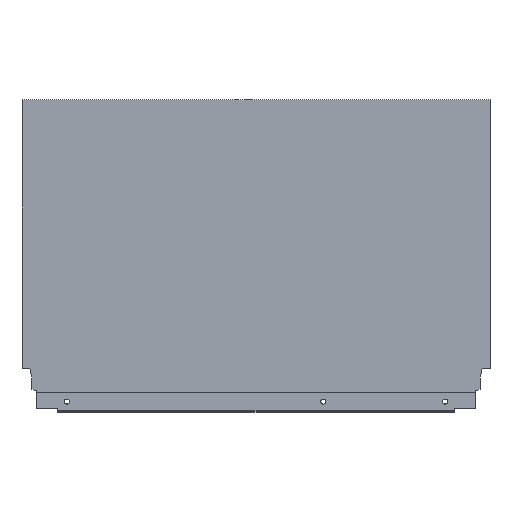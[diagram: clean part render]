
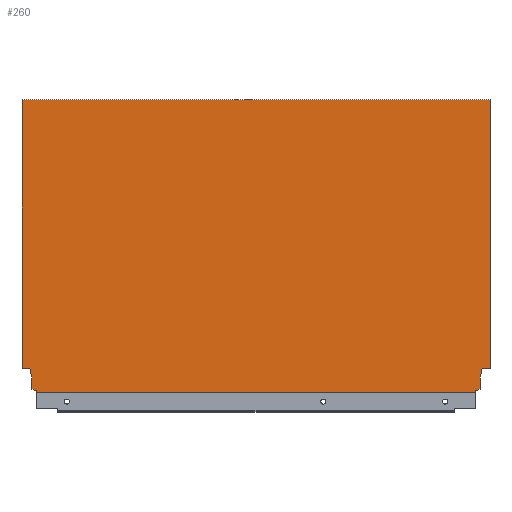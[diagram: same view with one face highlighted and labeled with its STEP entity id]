
A CAD part, top view. The second image highlights one B-rep face of the part: STEP entity #260.
In plain terms, the highlighted planar face has unit normal (0, 0, 1).
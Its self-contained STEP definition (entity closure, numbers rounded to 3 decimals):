
#6 = EDGE_CURVE ( 'NONE', #1136, #1373, #772, .T. ) ;
#14 = EDGE_CURVE ( 'NONE', #1151, #1108, #754, .T. ) ;
#22 = EDGE_CURVE ( 'NONE', #1363, #1300, #741, .T. ) ;
#25 = EDGE_CURVE ( 'NONE', #1377, #1373, #734, .T. ) ;
#29 = EDGE_CURVE ( 'NONE', #1410, #1418, #739, .T. ) ;
#30 = EDGE_CURVE ( 'NONE', #1084, #1362, #726, .T. ) ;
#33 = EDGE_CURVE ( 'NONE', #1323, #1480, #727, .T. ) ;
#60 = EDGE_CURVE ( 'NONE', #1363, #1358, #670, .T. ) ;
#73 = EDGE_CURVE ( 'NONE', #1362, #1151, #651, .T. ) ;
#122 = AXIS2_PLACEMENT_3D ( 'NONE', #1246, #1243, #1241 ) ;
#148 = EDGE_CURVE ( 'NONE', #1300, #1323, #598, .T. ) ;
#160 = EDGE_CURVE ( 'NONE', #1480, #1377, #579, .T. ) ;
#167 = EDGE_CURVE ( 'NONE', #1418, #1358, #574, .T. ) ;
#192 = EDGE_CURVE ( 'NONE', #1136, #1084, #204, .T. ) ;
#196 = EDGE_CURVE ( 'NONE', #1108, #1410, #218, .T. ) ;
#204 = LINE ( 'NONE', #1292, #223 ) ;
#217 = VECTOR ( 'NONE', #1285, 1000. ) ;
#218 = LINE ( 'NONE', #1284, #217 ) ;
#223 = VECTOR ( 'NONE', #1293, 1000. ) ;
#260 = ADVANCED_FACE ( 'NONE', ( #279 ), #1269, .T. ) ;
#279 = FACE_OUTER_BOUND ( 'NONE', #817, .T. ) ;
#439 = ORIENTED_EDGE ( 'NONE', *, *, #25, .F. ) ;
#485 = ORIENTED_EDGE ( 'NONE', *, *, #160, .F. ) ;
#508 = ORIENTED_EDGE ( 'NONE', *, *, #148, .F. ) ;
#512 = ORIENTED_EDGE ( 'NONE', *, *, #22, .F. ) ;
#514 = ORIENTED_EDGE ( 'NONE', *, *, #6, .T. ) ;
#532 = ORIENTED_EDGE ( 'NONE', *, *, #33, .F. ) ;
#572 = VECTOR ( 'NONE', #1478, 1000. ) ;
#574 = LINE ( 'NONE', #1374, #572 ) ;
#578 = VECTOR ( 'NONE', #1369, 1000. ) ;
#579 = LINE ( 'NONE', #1370, #578 ) ;
#597 = VECTOR ( 'NONE', #1394, 1000. ) ;
#598 = LINE ( 'NONE', #1391, #597 ) ;
#650 = VECTOR ( 'NONE', #1464, 1000. ) ;
#651 = LINE ( 'NONE', #1465, #650 ) ;
#669 = VECTOR ( 'NONE', #862, 1000. ) ;
#670 = LINE ( 'NONE', #859, #669 ) ;
#718 = VECTOR ( 'NONE', #889, 1000. ) ;
#724 = VECTOR ( 'NONE', #882, 1000. ) ;
#726 = LINE ( 'NONE', #960, #724 ) ;
#727 = LINE ( 'NONE', #881, #718 ) ;
#734 = LINE ( 'NONE', #936, #740 ) ;
#735 = VECTOR ( 'NONE', #880, 1000. ) ;
#739 = LINE ( 'NONE', #945, #735 ) ;
#740 = VECTOR ( 'NONE', #956, 1000. ) ;
#741 = LINE ( 'NONE', #940, #743 ) ;
#743 = VECTOR ( 'NONE', #939, 1000. ) ;
#751 = VECTOR ( 'NONE', #913, 1000. ) ;
#754 = LINE ( 'NONE', #876, #751 ) ;
#766 = VECTOR ( 'NONE', #1184, 1000. ) ;
#772 = LINE ( 'NONE', #1177, #766 ) ;
#817 = EDGE_LOOP ( 'NONE', ( #514, #439, #485, #532, #508, #512, #829, #838, #834, #840, #841, #833, #830, #832 ) ) ;
#829 = ORIENTED_EDGE ( 'NONE', *, *, #60, .T. ) ;
#830 = ORIENTED_EDGE ( 'NONE', *, *, #30, .F. ) ;
#832 = ORIENTED_EDGE ( 'NONE', *, *, #192, .F. ) ;
#833 = ORIENTED_EDGE ( 'NONE', *, *, #73, .F. ) ;
#834 = ORIENTED_EDGE ( 'NONE', *, *, #29, .F. ) ;
#838 = ORIENTED_EDGE ( 'NONE', *, *, #167, .F. ) ;
#840 = ORIENTED_EDGE ( 'NONE', *, *, #196, .F. ) ;
#841 = ORIENTED_EDGE ( 'NONE', *, *, #14, .F. ) ;
#859 = CARTESIAN_POINT ( 'NONE',  ( -417., 0., 8. ) ) ;
#862 = DIRECTION ( 'NONE',  ( 1., 0., 0. ) ) ;
#876 = CARTESIAN_POINT ( 'NONE',  ( -7.06, 21.2, 8. ) ) ;
#880 = DIRECTION ( 'NONE',  ( -0.94, -0.342, 0. ) ) ;
#881 = CARTESIAN_POINT ( 'NONE',  ( -408.1, 10.765, 8. ) ) ;
#882 = DIRECTION ( 'NONE',  ( 0., -1., 0. ) ) ;
#889 = DIRECTION ( 'NONE',  ( 0., 1., 0. ) ) ;
#913 = DIRECTION ( 'NONE',  ( -0.174, -0.985, 0. ) ) ;
#936 = CARTESIAN_POINT ( 'NONE',  ( -422., 21.2, 8. ) ) ;
#939 = DIRECTION ( 'NONE',  ( 0., 1., 0. ) ) ;
#940 = CARTESIAN_POINT ( 'NONE',  ( -403.996, 1.146, 8. ) ) ;
#945 = CARTESIAN_POINT ( 'NONE',  ( -8.9, 2.64, 8. ) ) ;
#956 = DIRECTION ( 'NONE',  ( -1., 0., 0. ) ) ;
#960 = CARTESIAN_POINT ( 'NONE',  ( 0., 0., 8. ) ) ;
#985 = CARTESIAN_POINT ( 'NONE',  ( -8.9, 2.64, 8. ) ) ;
#999 = CARTESIAN_POINT ( 'NONE',  ( -408.1, 2.64, 8. ) ) ;
#1013 = CARTESIAN_POINT ( 'NONE',  ( 0., 21.2, 8. ) ) ;
#1015 = CARTESIAN_POINT ( 'NONE',  ( -13.004, 0., 8. ) ) ;
#1022 = CARTESIAN_POINT ( 'NONE',  ( -403.996, 0., 8. ) ) ;
#1025 = CARTESIAN_POINT ( 'NONE',  ( -409.94, 21.2, 8. ) ) ;
#1026 = CARTESIAN_POINT ( 'NONE',  ( -417., 21.2, 8. ) ) ;
#1035 = CARTESIAN_POINT ( 'NONE',  ( -13.004, 1.146, 8. ) ) ;
#1040 = CARTESIAN_POINT ( 'NONE',  ( -408.1, 10.765, 8. ) ) ;
#1044 = CARTESIAN_POINT ( 'NONE',  ( -403.996, 1.146, 8. ) ) ;
#1084 = VERTEX_POINT ( 'NONE', #1088 ) ;
#1088 = CARTESIAN_POINT ( 'NONE',  ( 0., 260.7, 8. ) ) ;
#1093 = CARTESIAN_POINT ( 'NONE',  ( -8.9, 10.765, 8. ) ) ;
#1097 = CARTESIAN_POINT ( 'NONE',  ( -417., 260.7, 8. ) ) ;
#1100 = CARTESIAN_POINT ( 'NONE',  ( -7.06, 21.2, 8. ) ) ;
#1108 = VERTEX_POINT ( 'NONE', #1093 ) ;
#1136 = VERTEX_POINT ( 'NONE', #1097 ) ;
#1151 = VERTEX_POINT ( 'NONE', #1100 ) ;
#1177 = CARTESIAN_POINT ( 'NONE',  ( -417., 0., 8. ) ) ;
#1184 = DIRECTION ( 'NONE',  ( 0., -1., 0. ) ) ;
#1241 = DIRECTION ( 'NONE',  ( 1., 0., 0. ) ) ;
#1243 = DIRECTION ( 'NONE',  ( 0., 0., 1. ) ) ;
#1246 = CARTESIAN_POINT ( 'NONE',  ( -417., 0., 8. ) ) ;
#1269 = PLANE ( 'NONE',  #122 ) ;
#1284 = CARTESIAN_POINT ( 'NONE',  ( -8.9, 10.765, 8. ) ) ;
#1285 = DIRECTION ( 'NONE',  ( 0., -1., 0. ) ) ;
#1292 = CARTESIAN_POINT ( 'NONE',  ( -417., 260.7, 8. ) ) ;
#1293 = DIRECTION ( 'NONE',  ( 1., 0., 0. ) ) ;
#1300 = VERTEX_POINT ( 'NONE', #1044 ) ;
#1323 = VERTEX_POINT ( 'NONE', #999 ) ;
#1358 = VERTEX_POINT ( 'NONE', #1015 ) ;
#1362 = VERTEX_POINT ( 'NONE', #1013 ) ;
#1363 = VERTEX_POINT ( 'NONE', #1022 ) ;
#1369 = DIRECTION ( 'NONE',  ( -0.174, 0.985, 0. ) ) ;
#1370 = CARTESIAN_POINT ( 'NONE',  ( -409.94, 21.2, 8. ) ) ;
#1373 = VERTEX_POINT ( 'NONE', #1026 ) ;
#1374 = CARTESIAN_POINT ( 'NONE',  ( -13.004, 1.146, 8. ) ) ;
#1377 = VERTEX_POINT ( 'NONE', #1025 ) ;
#1391 = CARTESIAN_POINT ( 'NONE',  ( -408.1, 2.64, 8. ) ) ;
#1394 = DIRECTION ( 'NONE',  ( -0.94, 0.342, 0. ) ) ;
#1410 = VERTEX_POINT ( 'NONE', #985 ) ;
#1418 = VERTEX_POINT ( 'NONE', #1035 ) ;
#1464 = DIRECTION ( 'NONE',  ( -1., 0., 0. ) ) ;
#1465 = CARTESIAN_POINT ( 'NONE',  ( 0., 21.2, 8. ) ) ;
#1478 = DIRECTION ( 'NONE',  ( 0., -1., 0. ) ) ;
#1480 = VERTEX_POINT ( 'NONE', #1040 ) ;
